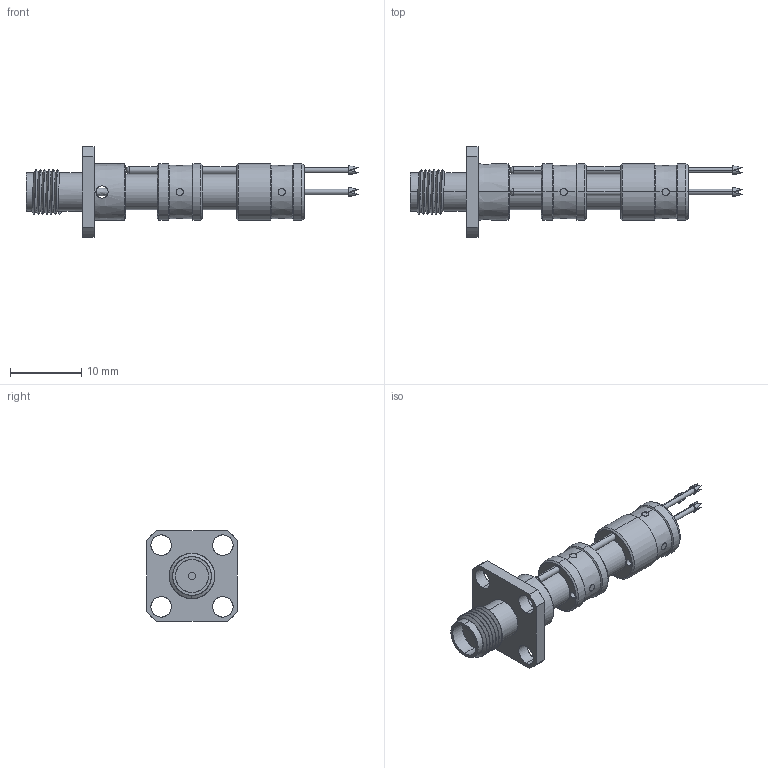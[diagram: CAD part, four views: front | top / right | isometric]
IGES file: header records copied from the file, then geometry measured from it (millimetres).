
Start section: SolidWorks IGES file using analytic representation for surfaces
Global section: file name: Z:\probe solid model mockups\Solidworks models\IGES Files\K-50L-QG IGES files\K-50L-QG.IGS; native system: SolidWorks 2006 by SolidWorks Corporation; preprocessor: SolidWorks 2006 by SolidWorks Corporation; author: tsakatani; date: 080107.153254; units: inch
Bounding box: 46.48 x 12.7 x 12.7 mm (x, y, z)
Surface area: 1786.7 mm2 (no closed solid volume)
Topology: 0 solids, 0 shells, 202 faces, 3028 edges, 3024 vertices
Faces by surface type: revolution 136, bspline 66
